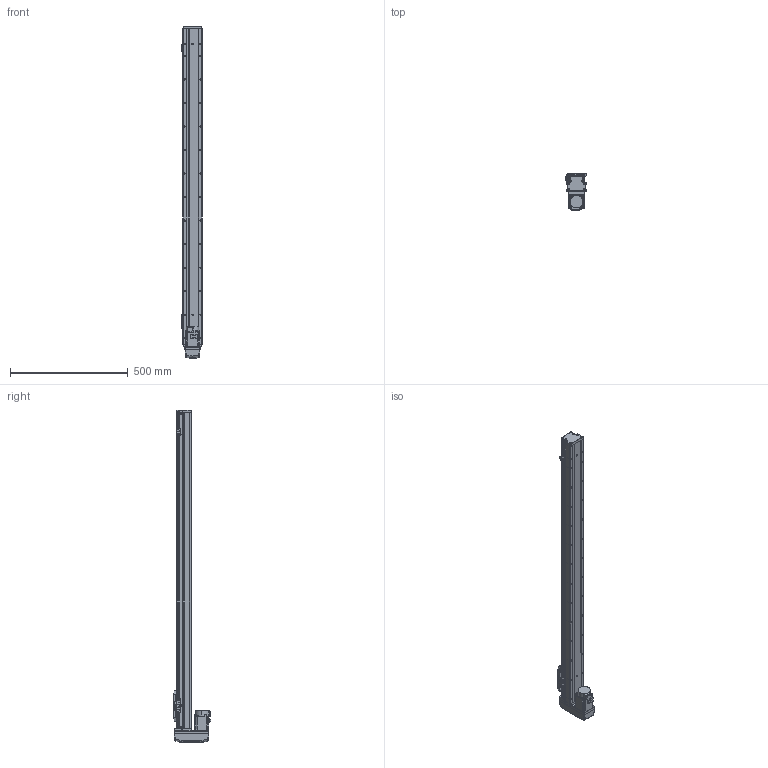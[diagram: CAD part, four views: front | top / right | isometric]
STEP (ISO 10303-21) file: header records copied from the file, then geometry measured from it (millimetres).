
FILE_DESCRIPTION (( 'STEP AP203' ), '1' );
FILE_NAME ('GTH8-1150-BM-M20-C4.step', '2023-08-28T00:57:33', ( '微软用户' ), ( '微软中国' ), 'SwSTEP 2.0', 'SolidWorks 2020', '' );
FILE_SCHEMA (( 'CONFIG_CONTROL_DESIGN' ));
Length unit declared in the file: millimetre
Products named in the file (18): BTH-M3X5X6; GTH80-001_1150; GBT 70.1-M3℅6; 三菱伺服电机[HG-KN23J-S100]; GTH80-003; GBT 70.1-M4×16; CTHA86-015-1_CTHA86-015-2; GTH80-004; GTH80-028; CTHA86-033_M40B; GTH80-006; GTH50-024; GTH8-1150-BM-M20-C4; GTH80-013; GTH50-023; GBT 70.3-M3℅6; GBT96.1-2002 3×0.8; GTH80-022
Assembly tree (57 placements, depth 2):
  GTH8-1150-BM-M20-C4
    GTH80-001_1150
    GTH80-003
    GTH80-004
    GTH80-006
    GTH80-013
    GBT 70.3-M3℅6  x4
    GTH80-022
    GBT 70.1-M3℅6  x14
    GBT 70.1-M4×16  x8
    GTH80-028  x2
    GTH50-024  x3
    GTH50-023  x3
    GBT96.1-2002 3×0.8  x6
    BTH-M3X5X6  x8
    三菱伺服电机[HG-KN23J-S100]
    CTHA86-015-1_CTHA86-015-2
    CTHA86-033_M40B
Bounding box: 86.9 x 160.3 x 1411 mm (x, y, z)
Volume: 6717825.6 mm3; surface area: 642250.4 mm2
Topology: 59 solids, 59 shells, 2212 faces, 5161 edges, 3173 vertices
Faces by surface type: plane 1151, cylinder 627, cone 260, torus 158, bspline 8, sphere 8
Entity records: 42343 total; most frequent: CARTESIAN_POINT 9299, DIRECTION 6296, ORIENTED_EDGE 6140, EDGE_CURVE 3070, AXIS2_PLACEMENT_3D 2178, VERTEX_POINT 1948, VECTOR 1940, LINE 1940
